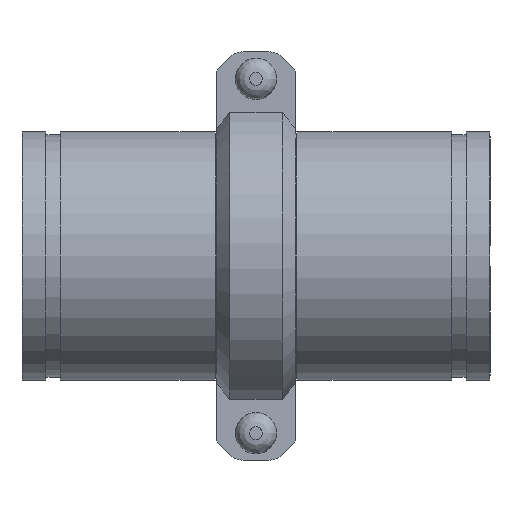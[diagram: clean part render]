
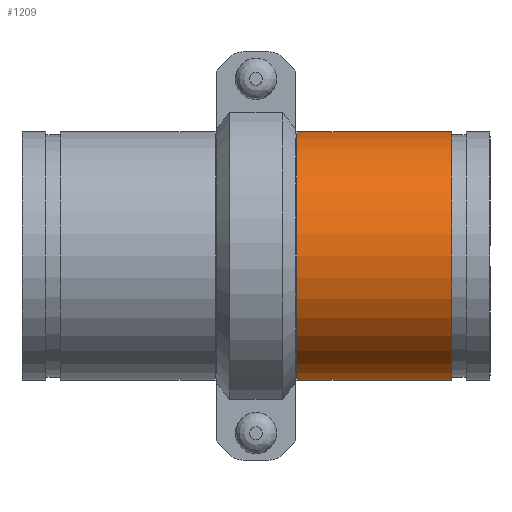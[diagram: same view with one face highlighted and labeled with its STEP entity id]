
A CAD part, front view. The second image highlights one B-rep face of the part: STEP entity #1209.
In plain terms, the highlighted cylindrical face has radius 82.55 mm (diameter 165.1 mm), a full revolution.
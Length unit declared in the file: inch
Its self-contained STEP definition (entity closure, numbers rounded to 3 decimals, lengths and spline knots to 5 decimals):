
#48=LINE('',#1920,#135);
#135=VECTOR('',#1561,3.25);
#222=CYLINDRICAL_SURFACE('',#1386,3.25);
#267=FACE_OUTER_BOUND('',#340,.T.);
#340=EDGE_LOOP('',(#797,#798,#799,#800,#801,#802));
#432=CIRCLE('',#1384,3.25);
#433=CIRCLE('',#1385,3.25);
#434=CIRCLE('',#1387,3.25);
#435=CIRCLE('',#1388,3.25);
#500=VERTEX_POINT('',#1911);
#501=VERTEX_POINT('',#1912);
#502=VERTEX_POINT('',#1916);
#503=VERTEX_POINT('',#1917);
#617=EDGE_CURVE('',#500,#501,#432,.T.);
#618=EDGE_CURVE('',#501,#500,#433,.T.);
#619=EDGE_CURVE('',#502,#503,#434,.T.);
#620=EDGE_CURVE('',#503,#502,#435,.T.);
#621=EDGE_CURVE('',#503,#501,#48,.T.);
#797=ORIENTED_EDGE('',*,*,#619,.F.);
#798=ORIENTED_EDGE('',*,*,#620,.F.);
#799=ORIENTED_EDGE('',*,*,#621,.T.);
#800=ORIENTED_EDGE('',*,*,#618,.T.);
#801=ORIENTED_EDGE('',*,*,#617,.T.);
#802=ORIENTED_EDGE('',*,*,#621,.F.);
#1209=ADVANCED_FACE('',(#267),#222,.T.);
#1384=AXIS2_PLACEMENT_3D('',#1913,#1551,#1552);
#1385=AXIS2_PLACEMENT_3D('',#1914,#1553,#1554);
#1386=AXIS2_PLACEMENT_3D('',#1915,#1555,#1556);
#1387=AXIS2_PLACEMENT_3D('',#1918,#1557,#1558);
#1388=AXIS2_PLACEMENT_3D('',#1919,#1559,#1560);
#1551=DIRECTION('center_axis',(-1.,0.,0.));
#1552=DIRECTION('ref_axis',(0.,0.,1.));
#1553=DIRECTION('center_axis',(-1.,0.,0.));
#1554=DIRECTION('ref_axis',(0.,0.,1.));
#1555=DIRECTION('center_axis',(-1.,0.,0.));
#1556=DIRECTION('ref_axis',(0.,1.,0.));
#1557=DIRECTION('center_axis',(-1.,0.,0.));
#1558=DIRECTION('ref_axis',(0.,0.,1.));
#1559=DIRECTION('center_axis',(-1.,0.,0.));
#1560=DIRECTION('ref_axis',(0.,0.,1.));
#1561=DIRECTION('',(1.,0.,0.));
#1911=CARTESIAN_POINT('',(2.0225,3.25,0.));
#1912=CARTESIAN_POINT('',(2.0225,-3.25,0.));
#1913=CARTESIAN_POINT('Origin',(2.0225,0.,0.));
#1914=CARTESIAN_POINT('Origin',(2.0225,0.,0.));
#1915=CARTESIAN_POINT('Origin',(0.,0.,
0.));
#1916=CARTESIAN_POINT('',(-2.0225,3.25,0.));
#1917=CARTESIAN_POINT('',(-2.0225,-3.25,0.));
#1918=CARTESIAN_POINT('Origin',(-2.0225,0.,0.));
#1919=CARTESIAN_POINT('Origin',(-2.0225,0.,0.));
#1920=CARTESIAN_POINT('',(0.,-3.25,0.));
